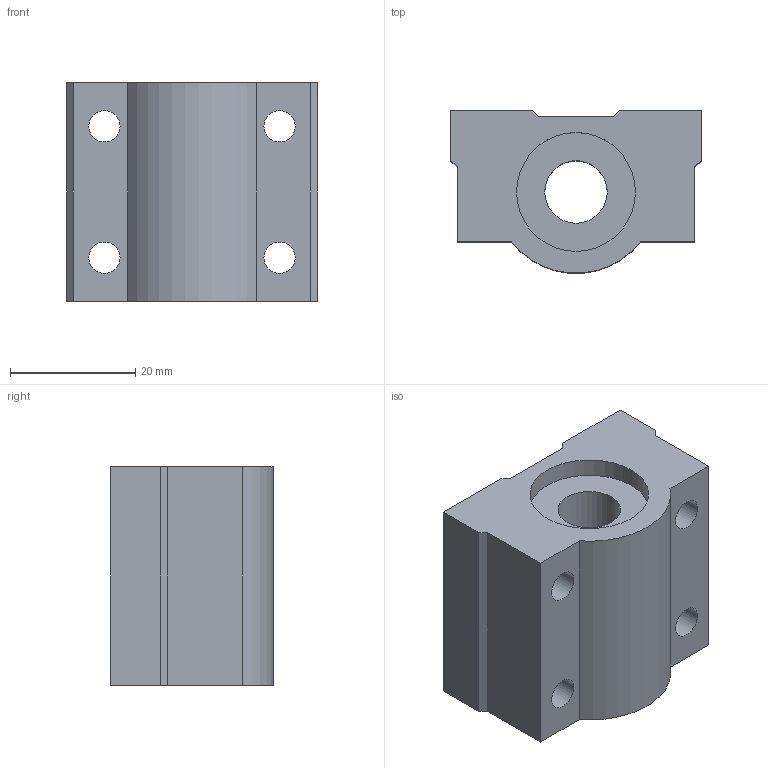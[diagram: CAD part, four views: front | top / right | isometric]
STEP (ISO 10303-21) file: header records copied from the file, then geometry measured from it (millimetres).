
FILE_DESCRIPTION((''),'2;1');
FILE_NAME('C:\Documents and Settings\ｿﾀﾀ蠑ｷ1\ｹﾙﾅﾁ ﾈｭｸ饅\ｺﾎﾇｰﾆﾄﾀﾏ\ﾁｦﾇｰ\SC__UUN\SC10UUN.stp','2005-06-18T14:59:13',('ｿﾀﾀ蠑ｷ1'),(''),'Autodesk Inventor 9','Autodesk Inventor 9','');
FILE_SCHEMA(('AUTOMOTIVE_DESIGN { 1 0 10303 214 1 1 1 1 }'));
Length unit declared in the file: millimetre
Products named in the file (1): SC10UUN
Bounding box: 40 x 25.96 x 35 mm (x, y, z)
Volume: 24943.2 mm3; surface area: 8388.2 mm2
Topology: 1 solids, 1 shells, 32 faces, 84 edges, 56 vertices
Faces by surface type: plane 17, bspline 8, cylinder 7
Entity records: 1145 total; most frequent: CARTESIAN_POINT 309, ORIENTED_EDGE 168, DIRECTION 164, EDGE_CURVE 84, VERTEX_POINT 56, AXIS2_PLACEMENT_3D 55, VECTOR 54, LINE 54
